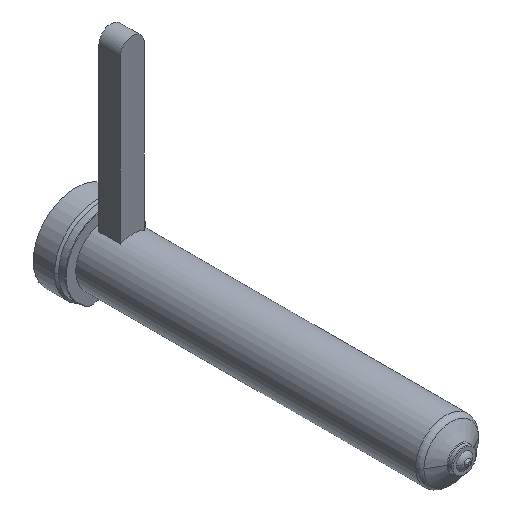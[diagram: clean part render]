
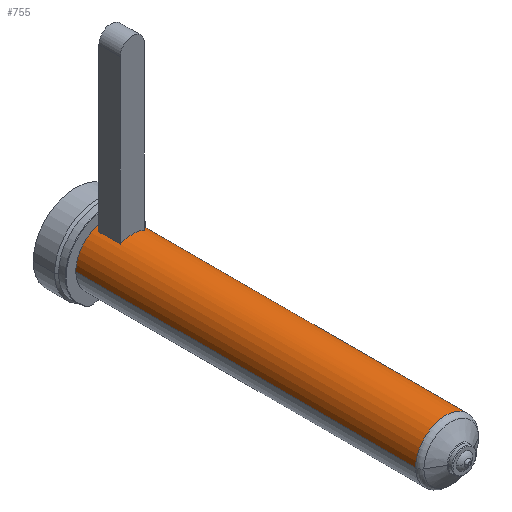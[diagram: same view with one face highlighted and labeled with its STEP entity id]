
A CAD part, isometric view. The second image highlights one B-rep face of the part: STEP entity #755.
In plain terms, the highlighted cylindrical face has radius 15 mm (diameter 30 mm), a partial arc.
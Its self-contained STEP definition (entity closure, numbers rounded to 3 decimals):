
#161=DIRECTION('',(0.,-1.,0.));
#162=VECTOR('',#161,168.226);
#163=CARTESIAN_POINT('',(15.,0.,0.));
#164=LINE('',#163,#162);
#165=CARTESIAN_POINT('',(0.,-168.226,0.));
#166=DIRECTION('',(0.,1.,0.));
#167=DIRECTION('',(-1.,0.,0.));
#168=AXIS2_PLACEMENT_3D('',#165,#166,#167);
#170=DIRECTION('',(0.,1.,0.));
#171=VECTOR('',#170,168.226);
#172=CARTESIAN_POINT('',(-15.,-168.226,0.));
#173=LINE('',#172,#171);
#174=CARTESIAN_POINT('',(0.,0.,0.));
#175=DIRECTION('',(0.,1.,0.));
#176=DIRECTION('',(-1.,0.,0.));
#177=AXIS2_PLACEMENT_3D('',#174,#175,#176);
#341=DIRECTION('',(0.,-1.,0.));
#342=VECTOR('',#341,10.5);
#343=CARTESIAN_POINT('',(-6.,-2.5,13.748));
#344=LINE('',#343,#342);
#353=CARTESIAN_POINT('',(0.,-13.,0.));
#354=DIRECTION('',(0.,1.,0.));
#355=DIRECTION('',(-0.4,0.,0.917));
#356=AXIS2_PLACEMENT_3D('',#353,#354,#355);
#367=DIRECTION('',(0.,-1.,0.));
#368=VECTOR('',#367,10.5);
#369=CARTESIAN_POINT('',(6.,-2.5,13.748));
#370=LINE('',#369,#368);
#388=CARTESIAN_POINT('',(0.,-2.5,0.));
#389=DIRECTION('',(0.,-1.,0.));
#390=DIRECTION('',(0.4,0.,0.917));
#391=AXIS2_PLACEMENT_3D('',#388,#389,#390);
#476=CARTESIAN_POINT('',(-15.,0.,0.));
#477=CARTESIAN_POINT('',(15.,0.,0.));
#478=VERTEX_POINT('',#476);
#479=VERTEX_POINT('',#477);
#488=CARTESIAN_POINT('',(6.,-2.5,13.748));
#489=VERTEX_POINT('',#488);
#490=CARTESIAN_POINT('',(-6.,-2.5,13.748));
#491=VERTEX_POINT('',#490);
#500=CARTESIAN_POINT('',(15.,-168.226,0.));
#501=VERTEX_POINT('',#500);
#510=CARTESIAN_POINT('',(-15.,-168.226,0.));
#511=VERTEX_POINT('',#510);
#512=CARTESIAN_POINT('',(6.,-13.,13.748));
#513=VERTEX_POINT('',#512);
#514=CARTESIAN_POINT('',(-6.,-13.,13.748));
#515=VERTEX_POINT('',#514);
#733=CARTESIAN_POINT('',(0.,16.4,0.));
#734=DIRECTION('',(0.,-1.,0.));
#735=DIRECTION('',(-1.,0.,0.));
#736=AXIS2_PLACEMENT_3D('',#733,#734,#735);
#737=CYLINDRICAL_SURFACE('',#736,15.);
#738=ORIENTED_EDGE('',*,*,#727,.T.);
#740=ORIENTED_EDGE('',*,*,#739,.F.);
#741=ORIENTED_EDGE('',*,*,#723,.T.);
#742=ORIENTED_EDGE('',*,*,#713,.T.);
#743=EDGE_LOOP('',(#738,#740,#741,#742));
#744=FACE_OUTER_BOUND('',#743,.F.);
#746=ORIENTED_EDGE('',*,*,#745,.T.);
#748=ORIENTED_EDGE('',*,*,#747,.T.);
#750=ORIENTED_EDGE('',*,*,#749,.F.);
#752=ORIENTED_EDGE('',*,*,#751,.T.);
#753=EDGE_LOOP('',(#746,#748,#750,#752));
#754=FACE_BOUND('',#753,.F.);
#755=ADVANCED_FACE('',(#744,#754),#737,.T.);
#169=CIRCLE('',#168,15.);
#178=CIRCLE('',#177,15.);
#357=CIRCLE('',#356,15.);
#392=CIRCLE('',#391,15.);
#713=EDGE_CURVE('',#478,#479,#178,.T.);
#723=EDGE_CURVE('',#511,#478,#173,.T.);
#727=EDGE_CURVE('',#479,#501,#164,.T.);
#739=EDGE_CURVE('',#511,#501,#169,.T.);
#745=EDGE_CURVE('',#491,#515,#344,.T.);
#747=EDGE_CURVE('',#515,#513,#357,.T.);
#749=EDGE_CURVE('',#489,#513,#370,.T.);
#751=EDGE_CURVE('',#489,#491,#392,.T.);
